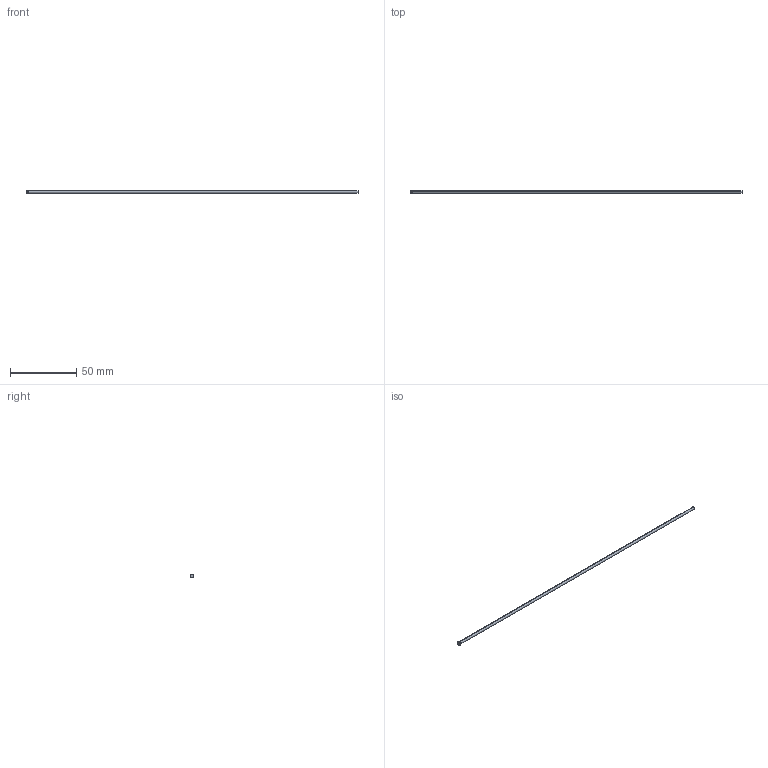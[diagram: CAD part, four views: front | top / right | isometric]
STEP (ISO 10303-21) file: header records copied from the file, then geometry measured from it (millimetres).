
FILE_DESCRIPTION (( 'STEP AP214' ), '1' );
FILE_NAME ('D-2x250.STEP', '2020-06-08T10:38:21', ( 'August' ), ( '' ), 'SwSTEP 2.0', 'SolidWorks 2018', '' );
FILE_SCHEMA (( 'AUTOMOTIVE_DESIGN' ));
Length unit declared in the file: millimetre
Products named in the file (1): D-2x250
Bounding box: 250 x 3 x 3 mm (x, y, z)
Volume: 789 mm3; surface area: 1585 mm2
Topology: 1 solids, 1 shells, 10 faces, 18 edges, 10 vertices
Faces by surface type: cylinder 4, torus 2, cone 2, plane 2
Entity records: 280 total; most frequent: DIRECTION 52, CARTESIAN_POINT 39, ORIENTED_EDGE 36, AXIS2_PLACEMENT_3D 23, EDGE_CURVE 18, CIRCLE 12, VERTEX_POINT 10, EDGE_LOOP 10
